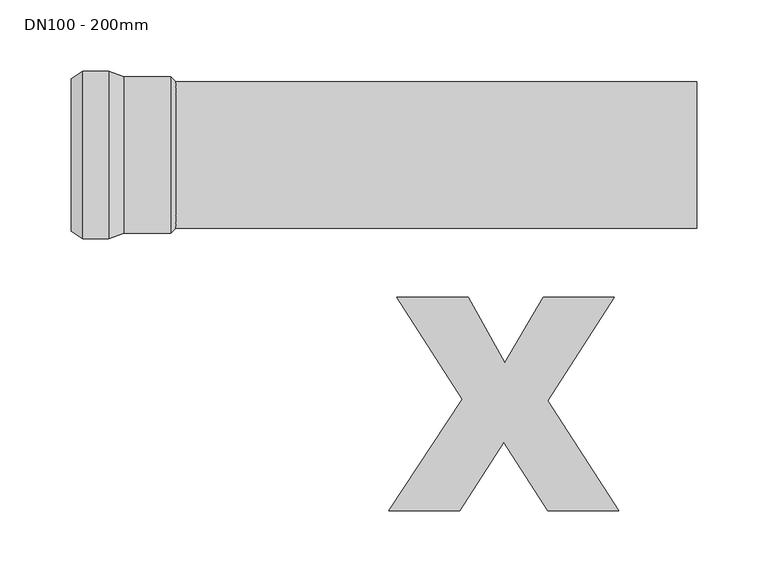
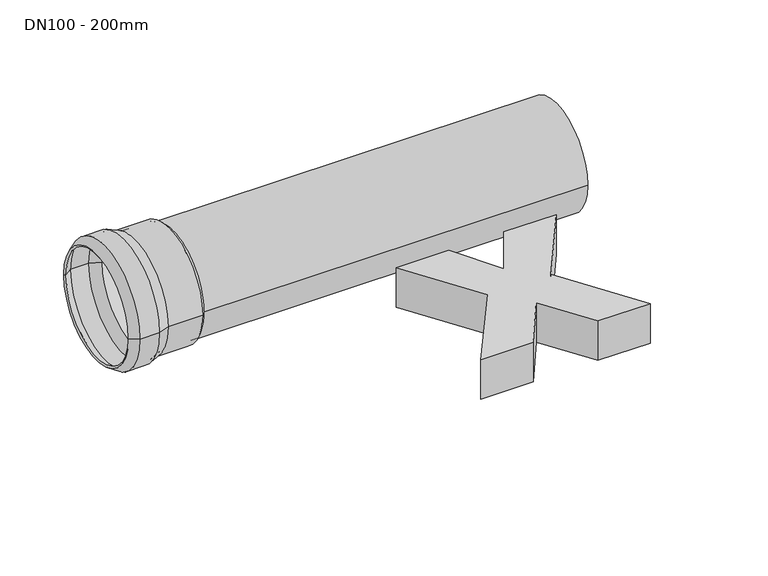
"""IFC4 building model written with IfcOpenShell, lengths in millimetres: valve geometry, PIA_ST_UN_GM-X s-bend_ACO : DN100 - 200mm."""

from ifc_helpers import new_model, si_unit, point, frame, origin, origin_2d, place, context, project, spatial, polyline, circle_curve, trimmed, segment, composite_curve, outline, extrude, source, transform, mapped, element, save
from ifc_brep_helpers import plane_surface, cylinder_surface, revolved_surface, advanced_brep


def dn100_200mm_64a89e8e(model_context):
    return source(origin(), model_context, "Body", "SolidModel", [
        extrude(outline(polyline([(-25.8838937, -100.0), (24.1161063, -100.0), (50.0352239, -146.1397059), (77.0572827, -100.0), (127.0572827, -100.0), (79.9984592, -172.65625), (129.9984592, -250.0), (79.9984592, -250.0), (49.1161063, -201.7922794), (18.2337533, -250.0), (-31.7662467, -250.0), (20.1179445, -171.8290441), (-25.8838937, -100.0)])), frame((0.0, 0.0, -20.0), z_axis=(0.0, 0.0, 1.0), x_axis=(1.0, 0.0, 0.0)), (0.0, 0.0, 1.0), 40.0),
        advanced_brep(
        [(-228.5, 59.0, 0.0), (-228.5, -59.0, 0.0), (-246.7, -59.0, 0.0), (-246.7, 59.0, 0.0), (-218.0, 55.0, 0.0), (-218.0, -55.0, 0.0), (-255.0, -53.5, 0.0), (-255.0, 53.5, 0.0), (-185.0, 55.0, 0.0), (-185.0, -55.0, 0.0), (-181.5, 51.5, 0.0), (-181.5, -51.5, 0.0), (-185.0, 51.5, 0.0), (-185.0, -51.5, 0.0), (-218.3680513, 53.0, 0.0), (-218.3680513, -53.0, 0.0), (-185.0, -53.0, 0.0), (-185.0, 53.0, 0.0), (-228.8680513, 57.0, 0.0), (-228.8680513, -57.0, 0.0), (-246.0974883, 57.0, 0.0), (-246.0974883, -57.0, 0.0), (-253.8952393, 51.8328156, 0.0), (-253.8952393, -51.8328156, 0.0)],
        [
            (0, 1, circle_curve(frame((-228.5, 0.0, 0.0), z_axis=(-1.0, 0.0, 0.0), x_axis=(0.0, -1.0, 0.0)), 59.0)),
            (1, 2),
            (2, 3, circle_curve(frame((-246.7, 0.0, 0.0), z_axis=(1.0, 0.0, 0.0), x_axis=(0.0, -1.0, 0.0)), 59.0)),
            (3, 0),
            (1, 0, circle_curve(frame((-228.5, 0.0, 0.0), z_axis=(-1.0, 0.0, 0.0), x_axis=(0.0, -1.0, 0.0)), 59.0)),
            (3, 2, circle_curve(frame((-246.7, 0.0, 0.0), z_axis=(1.0, 0.0, 0.0), x_axis=(0.0, -1.0, 0.0)), 59.0)),
            (4, 5, circle_curve(frame((-218.0, 0.0, 0.0), z_axis=(-1.0, 0.0, 0.0), x_axis=(0.0, -1.0, 0.0)), 55.0)),
            (5, 1),
            (0, 4),
            (5, 4, circle_curve(frame((-218.0, 0.0, 0.0), z_axis=(-1.0, 0.0, 0.0), x_axis=(0.0, -1.0, 0.0)), 55.0)),
            (2, 6),
            (6, 7, circle_curve(frame((-255.0, 0.0, 0.0), z_axis=(1.0, 0.0, 0.0), x_axis=(0.0, -1.0, 0.0)), 53.5)),
            (7, 3),
            (7, 6, circle_curve(frame((-255.0, 0.0, 0.0), z_axis=(1.0, 0.0, 0.0), x_axis=(0.0, -1.0, 0.0)), 53.5)),
            (8, 9, circle_curve(frame((-185.0, 0.0, 0.0), z_axis=(-1.0, 0.0, 0.0), x_axis=(0.0, -1.0, 0.0)), 55.0)),
            (9, 5),
            (4, 8),
            (9, 8, circle_curve(frame((-185.0, 0.0, 0.0), z_axis=(-1.0, 0.0, 0.0), x_axis=(0.0, -1.0, 0.0)), 55.0)),
            (10, 11, circle_curve(frame((-181.5, 0.0, 0.0), z_axis=(-1.0, 0.0, 0.0), x_axis=(0.0, -1.0, 0.0)), 51.5)),
            (11, 9),
            (8, 10),
            (11, 10, circle_curve(frame((-181.5, 0.0, 0.0), z_axis=(-1.0, 0.0, 0.0), x_axis=(0.0, -1.0, 0.0)), 51.5)),
            (12, 13, circle_curve(frame((-185.0, 0.0, 0.0), z_axis=(-1.0, 0.0, 0.0), x_axis=(0.0, -1.0, 0.0)), 51.5)),
            (13, 11),
            (10, 12),
            (13, 12, circle_curve(frame((-185.0, 0.0, 0.0), z_axis=(-1.0, 0.0, 0.0), x_axis=(0.0, -1.0, 0.0)), 51.5)),
            (14, 15, circle_curve(frame((-218.3680513, 0.0, 0.0), z_axis=(-1.0, 0.0, 0.0), x_axis=(0.0, -1.0, 0.0)), 53.0)),
            (15, 16),
            (16, 17, circle_curve(frame((-185.0, 0.0, 0.0), z_axis=(1.0, 0.0, 0.0), x_axis=(0.0, -1.0, 0.0)), 53.0)),
            (17, 14),
            (15, 14, circle_curve(frame((-218.3680513, 0.0, 0.0), z_axis=(-1.0, 0.0, 0.0), x_axis=(0.0, -1.0, 0.0)), 53.0)),
            (17, 16, circle_curve(frame((-185.0, 0.0, 0.0), z_axis=(1.0, 0.0, 0.0), x_axis=(0.0, -1.0, 0.0)), 53.0)),
            (18, 19, circle_curve(frame((-228.8680513, 0.0, 0.0), z_axis=(-1.0, 0.0, 0.0), x_axis=(0.0, -1.0, 0.0)), 57.0)),
            (19, 15),
            (14, 18),
            (19, 18, circle_curve(frame((-228.8680513, 0.0, 0.0), z_axis=(-1.0, 0.0, 0.0), x_axis=(0.0, -1.0, 0.0)), 57.0)),
            (20, 21, circle_curve(frame((-246.0974883, 0.0, 0.0), z_axis=(-1.0, 0.0, 0.0), x_axis=(0.0, -1.0, 0.0)), 57.0)),
            (21, 19),
            (18, 20),
            (21, 20, circle_curve(frame((-246.0974883, 0.0, 0.0), z_axis=(-1.0, 0.0, 0.0), x_axis=(0.0, -1.0, 0.0)), 57.0)),
            (22, 23, circle_curve(frame((-253.8952393, 0.0, 0.0), z_axis=(-1.0, 0.0, 0.0), x_axis=(0.0, -1.0, 0.0)), 51.8328156)),
            (23, 21),
            (20, 22),
            (23, 22, circle_curve(frame((-253.8952393, 0.0, 0.0), z_axis=(-1.0, 0.0, 0.0), x_axis=(0.0, -1.0, 0.0)), 51.8328156)),
            (6, 23),
            (22, 7),
            (16, 13),
            (12, 17),
        ],
        [
            cylinder_surface(frame((-251.6444117, 0.0, 0.0), z_axis=(1.0, 0.0, 0.0), x_axis=(0.0, -1.0, 0.0)), 59.0),
            revolved_surface(polyline([(-228.5, -59.0, 0.0), (-218.0, -55.0, 0.0)]), (-251.6444117, 0.0, 0.0), (1.0, 0.0, 0.0)),
            revolved_surface(polyline([(-255.0, -53.5, 0.0), (-246.7, -59.0, 0.0)]), (-251.6444117, 0.0, 0.0), (1.0, 0.0, 0.0)),
            cylinder_surface(frame((-251.6444117, 0.0, 0.0), z_axis=(1.0, 0.0, 0.0), x_axis=(0.0, -1.0, 0.0)), 55.0),
            revolved_surface(polyline([(-185.0, -55.0, 0.0), (-181.5, -51.5, 0.0)]), (-251.6444117, 0.0, 0.0), (1.0, 0.0, 0.0)),
            revolved_surface(polyline([(-181.5, -51.5, 0.0), (-185.0, -51.5, 0.0)]), (-251.6444117, 0.0, 0.0), (1.0, 0.0, 0.0)),
            revolved_surface(polyline([(-185.0, -53.0, 0.0), (-218.3680513, -53.0, 0.0)]), (-251.6444117, 0.0, 0.0), (1.0, 0.0, 0.0)),
            revolved_surface(polyline([(-218.3680513, -53.0, 0.0), (-228.8680513, -57.0, 0.0)]), (-251.6444117, 0.0, 0.0), (1.0, 0.0, 0.0)),
            revolved_surface(polyline([(-228.8680513, -57.0, 0.0), (-246.0974883, -57.0, 0.0)]), (-251.6444117, 0.0, 0.0), (1.0, 0.0, 0.0)),
            revolved_surface(polyline([(-246.0974883, -57.0, 0.0), (-253.8952393, -51.8328156, 0.0)]), (-251.6444117, 0.0, 0.0), (1.0, 0.0, 0.0)),
            revolved_surface(polyline([(-253.8952393, -51.8328156, 0.0), (-255.0, -53.5, 0.0)]), (-251.6444117, 0.0, 0.0), (1.0, 0.0, 0.0)),
            plane_surface(frame((-185.0, 0.0, 0.0), z_axis=(-1.0, 0.0, 0.0), x_axis=(0.0, -1.0, 0.0))),
        ],
        [
            (0, [[1, 2, 3, 4]]),
            (0, [[5, -4, 6, -2]]),
            (1, [[7, 8, -1, 9]]),
            (1, [[10, -9, -5, -8]]),
            (2, [[-3, 11, 12, 13]]),
            (2, [[-6, -13, 14, -11]]),
            (3, [[15, 16, -7, 17]]),
            (3, [[18, -17, -10, -16]]),
            (4, [[19, 20, -15, 21]]),
            (4, [[22, -21, -18, -20]]),
            (5, [[23, 24, -19, 25]]),
            (5, [[26, -25, -22, -24]]),
            (6, [[27, 28, 29, 30]]),
            (6, [[31, -30, 32, -28]]),
            (7, [[33, 34, -27, 35]]),
            (7, [[36, -35, -31, -34]]),
            (8, [[37, 38, -33, 39]]),
            (8, [[40, -39, -36, -38]]),
            (9, [[41, 42, -37, 43]]),
            (9, [[44, -43, -40, -42]]),
            (10, [[-12, 45, -41, 46]]),
            (10, [[-14, -46, -44, -45]]),
            (11, [[-29, 47, -23, 48]]),
            (11, [[-32, -48, -26, -47]]),
        ],
    ),
        extrude(outline(composite_curve([segment(trimmed(circle_curve(origin_2d(), 51.5), [point((-51.5, 0.0))], [point((51.5, 0.0))], False, "CARTESIAN"), True, "CONTINUOUS"), segment(trimmed(circle_curve(origin_2d(), 51.5), [point((51.5, 0.0))], [point((-51.5, 0.0))], False, "CARTESIAN"), True, "CONTINUOUS")], self_intersect=False)), frame((-185.0, 0.0, 0.0), z_axis=(1.0, 0.0, 0.0), x_axis=(0.0, 1.0, 0.0)), (0.0, 0.0, 1.0), 370.0),
    ])


if __name__ == "__main__":
    model = new_model("IFC4")
    model_context = context("Model", 3, world=origin())
    ifc_project = project(units=[si_unit("LENGTHUNIT", "METRE", prefix="MILLI")], contexts=[model_context])
    site = spatial("IfcSite", under=ifc_project)
    building = spatial("IfcBuilding", under=site)
    placement = place(None, origin())
    dn100_200mm_shape = dn100_200mm_64a89e8e(model_context)
    element("IfcValve", 1, ObjectType="PIA_ST_UN_GM-X s-bend_ACO : DN100 - 200mm", at=placement, inside=building, context=model_context, shape_type="MappedRepresentation", body=[
        mapped(dn100_200mm_shape, transform((0.0, 0.0, 0.0), x_axis=(1.0, 0.0, 0.0), y_axis=(0.0, 1.0, 0.0), z_axis=(0.0, 0.0, 1.0))),
    ])
    save(model, "model.ifc")
